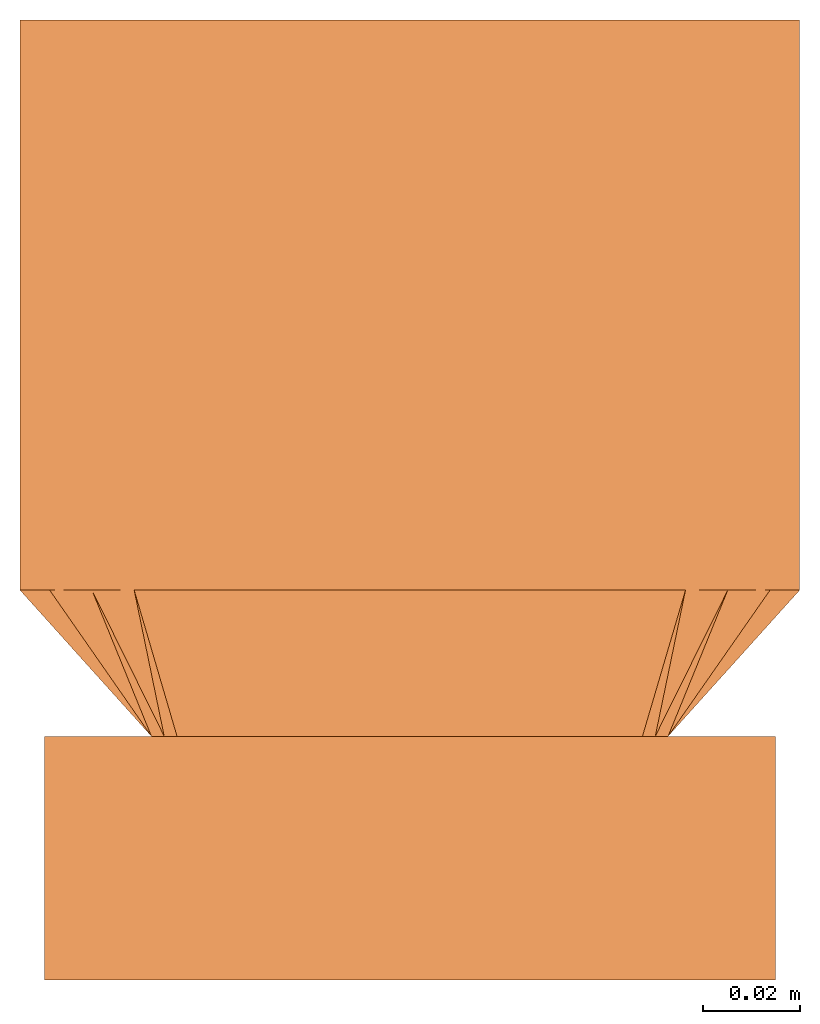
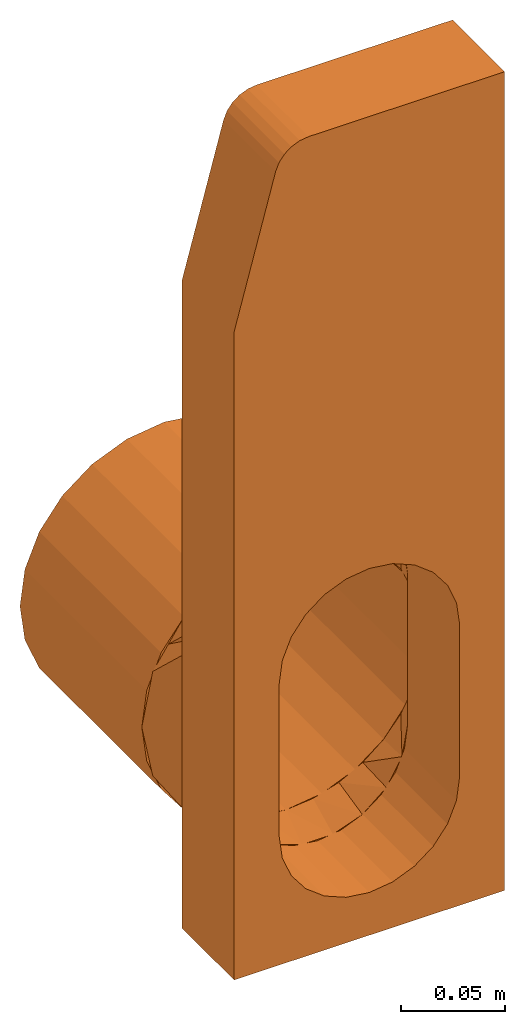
# One storey: 1 proxy.
"""IFC2X3 building model written with IfcOpenShell, lengths in millimetres."""

from ifc_helpers import new_model, entity, si_unit, converted_unit, direction, frame, origin, place, context, subcontext, project, spatial, faceted_brep, source, transform, mapped, material, material_list, element, save


model = new_model("IFC2X3")

# Units and contexts
model_context = context("Model", 3, precision=1e-06, world=origin(), true_north=direction((2.0, 6.12303176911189e-17, 1.0)))
context_of_model = context(None, 3, precision=1e-06, world=origin(), true_north=direction((2.0, 6.12303176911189e-17, 1.0)))
body_context = subcontext(model_context, "Body", "Model", "MODEL_VIEW")
ifc_project = project(units=[si_unit("LENGTHUNIT", "METRE", prefix="MILLI"), si_unit("AREAUNIT", "SQUARE_METRE", prefix="MILLI"), si_unit("VOLUMEUNIT", "CUBIC_METRE", prefix="MILLI"), converted_unit("PLANEANGLEUNIT", "DEGREE", entity("IfcRatioMeasure", 0.0174532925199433), si_unit("PLANEANGLEUNIT", "RADIAN"), dimensions=[0, 0, 0, 0, 0, 0, 0]), si_unit("TIMEUNIT", "SECOND")], contexts=[model_context, context_of_model])

# Site, building, storey
site_placement = place(None, origin())
site = spatial("IfcSite", under=ifc_project, at=site_placement, Name="Default", CompositionType="ELEMENT")
building_placement = place(site_placement, origin())
building = spatial("IfcBuilding", under=site, at=building_placement, CompositionType="ELEMENT")
storey_placement = place(building_placement, frame((0.0, 0.0, -300.0)))
storey = spatial("IfcBuildingStorey", under=building, at=storey_placement, Name="T.O. Fnd. Wall", CompositionType="ELEMENT", Elevation=-300.0)

# Proxy
ifc_material_1 = material(Name="Acetal Resin, Black")
ifc_material_2 = material(Name="ACO Polymer Concrete.")
ifc_material_list = material_list([ifc_material_1, ifc_material_2])
shared_shape = source(origin(), body_context, "Body", "Brep", [
    faceted_brep([(49.9795963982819, 50.0, -279.965697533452), (49.9795963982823, 50.0, -189.965697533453), (57.0264874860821, 57.9714749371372, -206.846749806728), (64.0733785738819, 65.9429498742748, -223.727802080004), (-50.0204036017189, 50.0, -279.965697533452), (-57.0564515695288, 57.9714749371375, -272.932324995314), (-73.3981248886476, 76.4857374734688, -246.054077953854), (-70.2962497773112, 72.9714749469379, -238.61198600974), (-50.0204036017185, 50.0, -189.965697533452), (-63.6131389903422, 80.0, -211.003599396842), (-47.0111437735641, 50.0, -172.881484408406), (-42.5098067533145, 80.0, -189.894547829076), (-38.3448463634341, 50.0, -157.852817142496), (-14.9344294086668, 80.0, -178.468089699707), (-8.70797821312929, 50.0, -140.726221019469), (-25.0351777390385, 50.0, -146.672960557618), (-0.00990544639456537, 80.0, -176.996170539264), (-29.2848805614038, 80.0, -182.823362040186), (-64.0924995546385, 65.942949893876, -223.727802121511), (-75.0320052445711, 80.0, -238.58147281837), (-70.6806531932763, 80.0, -224.230229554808), (-57.0564515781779, 57.9714749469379, -206.846749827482), (75.9597760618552, 80.0, -248.011974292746), (76.5000000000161, 80.0, -253.496169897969), (73.3933446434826, 76.4857374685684, -246.054077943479), (70.286689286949, 72.9714749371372, -238.611985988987), (-54.1010243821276, 80.0, -199.409857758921), (-75.9602066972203, 80.0, -248.011917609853), (14.9151545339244, 80.0, -178.464255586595), (8.67311493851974, 50.0, -140.727270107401), (25.0117179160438, 50.0, -146.682988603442), (75.0296544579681, 80.0, -238.569651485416), (70.6752538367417, 80.0, -224.217192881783), (42.4945199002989, 80.0, -189.884333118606), (46.9680154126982, 50.0, -172.875101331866), (38.300567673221, 50.0, -157.848674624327), (29.2671630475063, 80.0, -182.816022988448), (63.6043324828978, 80.0, -210.990418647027), (54.0888079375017, 80.0, -199.397640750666), (-76.4999999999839, 80.0, -253.496169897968), (63.604332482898, 80.0, -296.001921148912), (46.962991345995, 50.0, -297.070100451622), (42.4945199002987, 80.0, -317.108006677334), (38.2756927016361, 50.0, -312.112377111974), (14.9151545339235, 80.0, -328.528084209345), (8.65911579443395, 50.0, -329.206594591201), (24.9763976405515, 50.0, -323.268814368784), (-0.00990544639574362, 80.0, -329.996169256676), (29.2671630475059, 80.0, -324.176316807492), (64.0733785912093, 65.9429498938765, -265.898952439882), (75.0296544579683, 80.0, -268.422688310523), (70.675253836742, 80.0, -282.775146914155), (57.026487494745, 57.9714749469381, -272.932324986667), (-75.9602066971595, 80.0, -258.980422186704), (-73.3981248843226, 76.4857374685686, -256.59686553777), (-70.2962497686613, 72.9714749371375, -259.697561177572), (54.0888079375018, 80.0, -307.594699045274), (-64.0924995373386, 65.9429498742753, -265.898952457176), (-75.0320052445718, 80.0, -268.410866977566), (-14.9344294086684, 80.0, -328.524250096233), (-8.71009401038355, 50.0, -329.204800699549), (-25.0359891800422, 50.0, -323.257965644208), (70.2866892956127, 72.9714749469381, -259.697561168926), (75.9597760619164, 80.0, -258.980365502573), (-42.5098067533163, 80.0, -317.097791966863), (-47.007916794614, 50.0, -297.058783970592), (-38.3294637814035, 50.0, -312.096927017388), (-29.2848805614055, 80.0, -324.168977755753), (-63.6131389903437, 80.0, -295.988740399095), (-54.1010243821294, 80.0, -307.582482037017), (73.3933446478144, 76.4857374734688, -256.596865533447), (-70.6806531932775, 80.0, -282.762110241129), (-30.614674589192, 80.0, -327.506532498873), (-43.5916085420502, 80.0, -318.835622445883), (0.0, 80.0, -333.59616989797), (-15.3073372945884, 80.0, -330.551351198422), (-56.5685424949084, 80.0, -310.164712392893), (-73.9103626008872, 80.0, -284.210844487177), (-77.7502172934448, 80.0, -264.906591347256), (-65.2394525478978, 80.0, -297.187778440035), (30.6146745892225, 80.0, -327.506532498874), (15.3073372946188, 80.0, -330.551351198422), (56.5685424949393, 80.0, -310.164712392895), (43.5916085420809, 80.0, -318.835622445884), (73.9103626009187, 80.0, -284.210844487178), (65.239452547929, 80.0, -297.187778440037), (80.0, 80.0, -253.596169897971), (77.7502172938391, 80.0, -264.906591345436), (-80.0, 80.0, -253.596169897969), (-77.7502172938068, 80.0, -242.285748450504), (-73.9103626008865, 80.0, -222.981495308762), (-65.2394525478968, 80.0, -210.004561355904), (-56.5685424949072, 80.0, -197.027627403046), (-43.5916085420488, 80.0, -188.356717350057), (-30.6146745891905, 80.0, -179.685807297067), (-15.307337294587, 80.0, -176.640988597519), (0.0, 80.0, -173.59616989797), (56.56854249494, 80.0, -197.027627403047), (65.2394525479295, 80.0, -210.004561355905), (73.910362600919, 80.0, -222.981495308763), (77.7502172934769, 80.0, -242.285748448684), (30.6146745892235, 80.0, -179.685807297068), (15.30733729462, 80.0, -176.640988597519), (43.5916085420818, 80.0, -188.356717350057), (33.0245558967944, 50.0, -321.402766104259), (40.3777511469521, 50.0, -312.182150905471), (11.7732058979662, 50.0, -331.63687687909), (22.3988808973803, 50.0, -326.519821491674), (-11.8140131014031, 50.0, -331.63687687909), (-0.0204036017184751, 50.0, -331.63687687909), (52.9795963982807, 50.0, -279.965697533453), (50.3552713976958, 50.0, -291.463616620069), (52.9795963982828, 50.0, -189.965697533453), (47.7309463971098, 50.0, -302.961535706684), (-22.4396881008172, 50.0, -326.519821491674), (-33.0653631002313, 50.0, -321.402766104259), (-47.7717536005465, 50.0, -302.961535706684), (-40.4185583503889, 50.0, -312.182150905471), (-53.0204036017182, 50.0, -279.965697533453), (-50.3960786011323, 50.0, -291.463616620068), (-53.0204036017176, 50.0, -189.965697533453), (50.3552713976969, 50.0, -178.467778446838), (47.7309463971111, 50.0, -166.969859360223), (40.3777511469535, 50.0, -157.749244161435), (33.0245558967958, 50.0, -148.528628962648), (22.3988808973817, 50.0, -143.411573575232), (11.7732058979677, 50.0, -138.294518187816), (-0.0204036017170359, 50.0, -138.294518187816), (-47.7717536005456, 50.0, -166.969859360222), (-50.3960786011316, 50.0, -178.467778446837), (-11.8140131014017, 50.0, -138.294518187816), (-22.4396881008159, 50.0, -143.411573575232), (-33.0653631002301, 50.0, -148.528628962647), (-40.4185583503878, 50.0, -157.749244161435), (-73.5233286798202, 72.7982562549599, -238.3211580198), (-67.0466573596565, 65.5965125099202, -223.04614614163), (73.5135325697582, 72.7982562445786, -238.321157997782), (67.0270651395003, 65.5965124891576, -223.046146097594), (73.5135325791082, 72.79825625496, -259.926389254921), (67.0270651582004, 65.5965125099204, -266.25660861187), (-73.5233286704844, 72.7982562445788, -259.926389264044), (-67.0466573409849, 65.596512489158, -266.256608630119)], [[[0, 1, 2, 3]], [[4, 5, 6, 7]], [[8, 9, 10]], [[10, 11, 12]], [[13, 14, 15]], [[16, 14, 13]], [[17, 15, 12]], [[17, 13, 15]], [[18, 19, 20]], [[8, 21, 9]], [[22, 23, 24, 25]], [[10, 26, 11]], [[26, 10, 9]], [[20, 9, 21]], [[12, 11, 17]], [[7, 6, 27, 19]], [[28, 29, 16]], [[14, 16, 29]], [[30, 29, 28]], [[31, 3, 32]], [[33, 34, 35]], [[35, 30, 36]], [[32, 3, 2]], [[36, 30, 28]], [[21, 18, 20]], [[1, 34, 37]], [[36, 33, 35]], [[33, 38, 34]], [[25, 3, 31, 22]], [[1, 37, 2]], [[38, 37, 34]], [[32, 2, 37]], [[6, 39, 27]], [[18, 7, 19]], [[0, 40, 41]], [[41, 42, 43]], [[44, 45, 46]], [[47, 45, 44]], [[48, 46, 43]], [[48, 44, 46]], [[49, 50, 51]], [[0, 52, 40]], [[53, 39, 54, 55]], [[41, 56, 42]], [[56, 41, 40]], [[51, 40, 52]], [[43, 42, 48]], [[55, 57, 58, 53]], [[59, 60, 47]], [[45, 47, 60]], [[61, 60, 59]], [[50, 49, 62, 63]], [[64, 65, 66]], [[66, 61, 67]], [[67, 61, 59]], [[4, 68, 5]], [[4, 65, 68]], [[67, 64, 66]], [[64, 69, 65]], [[63, 62, 70, 23]], [[71, 57, 5]], [[69, 68, 65]], [[52, 49, 51]], [[71, 5, 68]], [[58, 57, 71]], [[72, 73, 64, 67]], [[74, 75, 59, 47]], [[72, 67, 59, 75]], [[76, 69, 64, 73]], [[77, 78, 58, 71]], [[68, 69, 76, 79]], [[77, 71, 68, 79]], [[80, 81, 44, 48]], [[82, 83, 42, 56]], [[80, 48, 42, 83]], [[74, 47, 44, 81]], [[40, 51, 84, 85]], [[86, 87, 50, 63]], [[84, 51, 50, 87]], [[82, 56, 40, 85]], [[88, 39, 53, 58]], [[19, 27, 88, 89]], [[90, 20, 19, 89]], [[9, 20, 90, 91]], [[92, 26, 9, 91]], [[92, 93, 11, 26]], [[94, 17, 11, 93]], [[13, 17, 94, 95]], [[96, 16, 13, 95]], [[97, 98, 37, 38]], [[99, 32, 37, 98]], [[99, 100, 31, 32]], [[86, 23, 22, 31]], [[101, 36, 28, 102]], [[96, 102, 28, 16]], [[101, 103, 33, 36]], [[97, 38, 33, 103]], [[43, 46, 104, 105]], [[106, 107, 46, 45]], [[108, 109, 45, 60]], [[110, 0, 41, 111]], [[1, 0, 110, 112]], [[41, 43, 113, 111]], [[108, 60, 61, 114]], [[115, 114, 61, 66]], [[66, 65, 116, 117]], [[118, 119, 65, 4]], [[118, 4, 8, 120]], [[34, 1, 112, 121]], [[35, 34, 122, 123]], [[30, 35, 124, 125]], [[126, 29, 30, 125]], [[14, 29, 126, 127]], [[128, 129, 10, 12]], [[120, 8, 10, 129]], [[15, 14, 130, 131]], [[12, 15, 132, 133]], [[91, 129, 92]], [[125, 124, 101]], [[93, 128, 133, 132]], [[89, 88, 134, 135]], [[96, 95, 130]], [[131, 130, 95]], [[96, 130, 127, 126]], [[135, 120, 90, 89]], [[136, 86, 100, 137]], [[129, 91, 120]], [[129, 128, 92]], [[94, 131, 95]], [[96, 126, 102]], [[102, 125, 101]], [[123, 122, 103, 124]], [[94, 132, 131]], [[120, 91, 90]], [[112, 98, 121]], [[99, 112, 137, 100]], [[125, 102, 126]], [[122, 121, 97]], [[128, 93, 92]], [[124, 103, 101]], [[97, 121, 98]], [[112, 99, 98]], [[93, 132, 94]], [[103, 122, 97]], [[118, 120, 135, 134]], [[85, 111, 82]], [[114, 115, 72]], [[83, 113, 105, 104]], [[87, 86, 138, 139]], [[74, 81, 106]], [[107, 106, 81]], [[74, 106, 109, 108]], [[139, 110, 84, 87]], [[140, 88, 78, 141]], [[111, 85, 110]], [[111, 113, 82]], [[80, 107, 81]], [[74, 108, 75]], [[75, 114, 72]], [[117, 116, 73, 115]], [[80, 104, 107]], [[110, 85, 84]], [[118, 79, 119]], [[77, 118, 141, 78]], [[114, 75, 108]], [[116, 119, 76]], [[113, 83, 82]], [[115, 73, 72]], [[76, 119, 79]], [[118, 77, 79]], [[83, 104, 80]], [[73, 116, 76]], [[110, 139, 136, 137]], [[0, 3, 25, 24]], [[24, 23, 70, 62]], [[24, 62, 49, 52]], [[24, 52, 0]], [[4, 7, 18, 21]], [[4, 21, 8]], [[6, 5, 57, 55]], [[6, 55, 54, 39]], [[58, 78, 88]], [[86, 63, 23]], [[88, 27, 39]], [[31, 100, 86]], [[46, 107, 104]], [[45, 109, 106]], [[43, 105, 113]], [[65, 119, 116]], [[66, 117, 115]], [[34, 121, 122]], [[35, 123, 124]], [[14, 127, 130]], [[15, 131, 132]], [[12, 133, 128]], [[134, 88, 140, 141]], [[134, 141, 118]], [[110, 137, 112]], [[136, 139, 138, 86]]]),
    faceted_brep([(-43.1258679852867, 0.0, 122.454482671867), (-47.0608968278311, 0.0, 119.435028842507), (-33.6258679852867, 0.0, 125.0), (-38.5434298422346, 0.0, 124.352590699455), (-50.080350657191, 0.0, 115.499999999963), (-51.978458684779, 0.0, 110.917561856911), (-75.0, 0.0, 25.0), (75.0, 0.0, 125.0), (-43.2808665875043, 0.0, -164.965697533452), (-35.3349354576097, 0.0, -154.610358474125), (-48.2758877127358, 0.0, -177.024745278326), (-49.9795963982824, 0.0, -189.965697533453), (-75.0, 0.0, -355.0), (-24.9795963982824, 0.0, -146.66442734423), (0.0204036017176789, 0.0, -139.965697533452), (12.9613558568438, 0.0, -141.669406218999), (-12.9205486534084, 0.0, -141.669406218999), (35.3757426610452, 0.0, -154.610358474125), (43.3216737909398, 0.0, -164.965697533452), (25.0204036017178, 0.0, -146.66442734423), (48.3166949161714, 0.0, -177.024745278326), (-49.979596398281, 0.0, -279.965697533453), (-43.2808665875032, 0.0, -304.965697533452), (-48.2758877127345, 0.0, -292.906649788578), (-35.3349354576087, 0.0, -315.32103659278), (-24.9795963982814, 0.0, -323.266967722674), (-12.9205486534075, 0.0, -328.261988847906), (0.0204036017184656, 0.0, -329.965697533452), (75.0, 0.0, -355.0), (50.0204036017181, 0.0, -189.965697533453), (50.0204036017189, 0.0, -279.965697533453), (48.3166949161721, 0.0, -292.906649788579), (25.0204036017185, 0.0, -323.266967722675), (12.9613558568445, 0.0, -328.261988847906), (43.3216737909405, 0.0, -304.965697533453), (35.3757426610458, 0.0, -315.32103659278), (-75.0, 50.0, -355.0), (-24.9795963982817, 50.0, -323.266967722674), (-12.9205486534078, 50.0, -328.261988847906), (-35.334935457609, 50.0, -315.32103659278), (0.0204036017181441, 50.0, -329.965697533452), (75.0, 50.0, -355.0), (-49.9795963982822, 50.0, -189.965697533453), (-49.9795963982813, 50.0, -279.965697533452), (-75.0, 50.0, 25.0), (-43.2808665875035, 50.0, -304.965697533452), (-48.2758877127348, 50.0, -292.906649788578), (12.9613558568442, 50.0, -328.261988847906), (25.0204036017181, 50.0, -323.266967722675), (35.3757426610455, 50.0, -315.32103659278), (43.3216737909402, 50.0, -304.965697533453), (50.0204036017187, 50.0, -279.965697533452), (50.0204036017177, 50.0, -189.965697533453), (75.0, 50.0, 125.0), (48.3166949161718, 50.0, -292.906649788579), (48.3166949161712, 50.0, -177.024745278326), (-48.275887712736, 50.0, -177.024745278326), (-43.2808665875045, 50.0, -164.965697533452), (-35.3349354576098, 50.0, -154.610358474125), (-24.9795963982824, 50.0, -146.66442734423), (-33.625867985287, 50.0, 125.0), (-51.9784586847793, 50.0, 110.917561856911), (-50.0803506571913, 50.0, 115.499999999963), (-47.0608968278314, 50.0, 119.435028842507), (-43.125867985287, 50.0, 122.454482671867), (-38.5434298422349, 50.0, 124.352590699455), (43.3216737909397, 50.0, -164.965697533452), (35.3757426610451, 50.0, -154.610358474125), (25.0204036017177, 50.0, -146.66442734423), (0.0204036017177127, 50.0, -139.965697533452), (-12.9205486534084, 50.0, -141.669406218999), (12.9613558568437, 50.0, -141.669406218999)], [[[0, 1, 2, 3]], [[2, 1, 4, 5]], [[2, 5, 6, 7]], [[8, 9, 6]], [[10, 8, 6]], [[11, 10, 6, 12]], [[13, 6, 9]], [[6, 14, 15, 7]], [[6, 16, 14]], [[17, 18, 7]], [[19, 17, 7]], [[15, 19, 7]], [[6, 13, 16]], [[7, 18, 20]], [[21, 11, 12]], [[22, 23, 12]], [[21, 12, 23]], [[24, 12, 25]], [[12, 24, 22]], [[26, 25, 12]], [[27, 26, 12, 28]], [[29, 30, 28, 7]], [[31, 28, 30]], [[32, 33, 28]], [[34, 35, 28]], [[28, 35, 32]], [[34, 28, 31]], [[33, 27, 28]], [[29, 7, 20]], [[36, 37, 38]], [[37, 36, 39]], [[36, 38, 40, 41]], [[42, 43, 36, 44]], [[45, 39, 36]], [[46, 45, 36]], [[43, 46, 36]], [[47, 48, 41]], [[41, 49, 50]], [[49, 41, 48]], [[47, 41, 40]], [[41, 51, 52, 53]], [[54, 51, 41]], [[50, 54, 41]], [[53, 52, 55]], [[56, 44, 57]], [[44, 56, 42]], [[58, 57, 44]], [[58, 44, 59]], [[60, 61, 62, 63]], [[60, 63, 64, 65]], [[44, 61, 60, 53]], [[66, 67, 53]], [[68, 53, 67]], [[44, 69, 70]], [[70, 59, 44]], [[71, 69, 44, 53]], [[71, 53, 68]], [[66, 53, 55]], [[44, 36, 12, 6]], [[5, 61, 44, 6]], [[62, 4, 1, 63]], [[61, 5, 4, 62]], [[63, 1, 0, 64]], [[64, 0, 3, 65]], [[65, 3, 2, 60]], [[53, 60, 2, 7]], [[41, 53, 7, 28]], [[36, 41, 28, 12]], [[43, 42, 11, 21]], [[56, 10, 11, 42]], [[57, 8, 10, 56]], [[58, 9, 8, 57]], [[59, 13, 9, 58]], [[16, 70, 69, 14]], [[13, 59, 70, 16]], [[19, 15, 71, 68]], [[17, 19, 68, 67]], [[20, 18, 66, 55]], [[18, 17, 67, 66]], [[29, 20, 55, 52]], [[69, 71, 15, 14]], [[52, 51, 30, 29]], [[54, 31, 30, 51]], [[50, 34, 31, 54]], [[27, 33, 47, 40]], [[49, 35, 34, 50]], [[49, 48, 32, 35]], [[33, 32, 48, 47]], [[25, 26, 38, 37]], [[24, 25, 37, 39]], [[23, 22, 45, 46]], [[22, 24, 39, 45]], [[21, 23, 46, 43]], [[40, 38, 26, 27]]]),
    faceted_brep([(38.249999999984, 80.0, -319.74711328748), (40.0, 80.0, -322.878202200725), (56.5685424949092, 80.0, -310.164712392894), (54.0936687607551, 80.0, -307.589838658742), (19.7996569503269, 80.0, -327.389495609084), (20.7055236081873, 80.0, -330.870236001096), (0.0, 80.0, -329.99616989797), (0.0, 80.0, -333.59616989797), (73.8933257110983, 80.0, -273.295826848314), (77.2740661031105, 80.0, -274.301693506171), (80.0, 80.0, -253.59616989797), (76.4999999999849, 80.0, -253.496169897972), (66.2509433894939, 80.0, -291.746169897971), (69.2820323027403, 80.0, -293.59616989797), (-20.705523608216, 80.0, -330.870236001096), (-19.7996569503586, 80.0, -327.389495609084), (-40.0, 80.0, -322.878202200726), (-38.2500000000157, 80.0, -319.74711328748), (-56.5685424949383, 80.0, -310.164712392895), (-54.0936687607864, 80.0, -307.589838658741), (-66.2509433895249, 80.0, -291.74616989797), (-69.2820323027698, 80.0, -293.596169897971), (-77.2740661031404, 80.0, -274.301693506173), (-73.893325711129, 80.0, -273.295826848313), (-80.0, 80.0, -253.596169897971), (-76.5000000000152, 80.0, -253.496169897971), (77.2740661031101, 80.0, -232.890646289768), (73.893325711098, 80.0, -233.696512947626), (69.2820323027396, 80.0, -213.59616989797), (66.2509433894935, 80.0, -215.246169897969), (56.5685424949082, 80.0, -197.027627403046), (54.0936687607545, 80.0, -199.402501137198), (40.0, 80.0, -184.314137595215), (38.2499999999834, 80.0, -187.24522650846), (20.7055236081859, 80.0, -176.322103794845), (19.7996569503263, 80.0, -179.602844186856), (0.0, 80.0, -173.59616989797), (0.0, 80.0, -176.99616989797), (-56.5685424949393, 80.0, -197.027627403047), (-69.2820323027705, 80.0, -213.596169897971), (-66.2509433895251, 80.0, -215.246169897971), (-54.0936687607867, 80.0, -199.4025011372), (-73.8933257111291, 80.0, -233.696512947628), (-77.2740661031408, 80.0, -232.890646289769), (-20.7055236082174, 80.0, -176.322103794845), (-19.7996569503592, 80.0, -179.602844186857), (-38.2500000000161, 80.0, -187.245226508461), (-40.0, 80.0, -184.314137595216), (54.0936687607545, 197.0, -199.402501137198), (38.2499999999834, 197.0, -187.24522650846), (40.0, 197.0, -184.314137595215), (56.5685424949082, 197.0, -197.027627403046), (20.7055236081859, 197.0, -176.322103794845), (19.7996569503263, 197.0, -179.602844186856), (0.0, 197.0, -173.59616989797), (0.0, 197.0, -176.99616989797), (76.4999999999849, 197.0, -253.496169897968), (73.893325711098, 197.0, -233.696512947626), (77.2740661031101, 197.0, -232.890646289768), (80.0, 197.0, -253.59616989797), (69.2820323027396, 197.0, -213.59616989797), (66.2509433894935, 197.0, -215.246169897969), (-19.7996569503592, 197.0, -179.602844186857), (-20.7055236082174, 197.0, -176.322103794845), (-38.2500000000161, 197.0, -187.245226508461), (-40.0, 197.0, -184.314137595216), (-54.0936687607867, 197.0, -199.4025011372), (-56.5685424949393, 197.0, -197.027627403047), (-66.2509433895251, 197.0, -215.246169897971), (-69.2820323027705, 197.0, -213.596169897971), (-73.8933257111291, 197.0, -233.696512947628), (-77.2740661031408, 197.0, -232.890646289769), (-76.5000000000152, 197.0, -253.49616989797), (-80.0, 197.0, -253.596169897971), (77.2740661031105, 197.0, -274.301693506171), (73.8933257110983, 197.0, -273.295826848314), (66.2509433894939, 197.0, -291.746169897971), (69.2820323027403, 197.0, -293.59616989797), (54.0936687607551, 197.0, -307.589838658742), (56.5685424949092, 197.0, -310.164712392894), (40.0, 197.0, -322.878202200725), (38.249999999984, 197.0, -319.74711328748), (19.7996569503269, 197.0, -327.389495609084), (20.7055236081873, 197.0, -330.870236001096), (0.0, 197.0, -329.99616989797), (0.0, 197.0, -333.59616989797), (-69.2820323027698, 197.0, -293.596169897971), (-66.2509433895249, 197.0, -291.74616989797), (-54.0936687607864, 197.0, -307.589838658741), (-56.5685424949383, 197.0, -310.164712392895), (-77.2740661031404, 197.0, -274.301693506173), (-73.893325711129, 197.0, -273.295826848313), (-20.705523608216, 197.0, -330.870236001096), (-19.7996569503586, 197.0, -327.389495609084), (-40.0, 197.0, -322.878202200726), (-38.2500000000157, 197.0, -319.74711328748)], [[[0, 1, 2, 3]], [[1, 0, 4, 5]], [[5, 4, 6, 7]], [[8, 9, 10, 11]], [[9, 8, 12, 13]], [[13, 12, 3, 2]], [[14, 7, 6, 15]], [[16, 14, 15, 17]], [[18, 16, 17, 19]], [[19, 20, 21, 18]], [[22, 21, 20, 23]], [[24, 22, 23, 25]], [[26, 27, 11, 10]], [[27, 26, 28, 29]], [[30, 31, 29, 28]], [[32, 33, 31, 30]], [[33, 32, 34, 35]], [[36, 37, 35, 34]], [[38, 39, 40, 41]], [[42, 40, 39, 43]], [[25, 42, 43, 24]], [[36, 44, 45, 37]], [[46, 45, 44, 47]], [[47, 38, 41, 46]], [[48, 49, 50, 51]], [[52, 50, 49, 53]], [[54, 52, 53, 55]], [[56, 57, 58, 59]], [[60, 58, 57, 61]], [[61, 48, 51, 60]], [[62, 63, 54, 55]], [[63, 62, 64, 65]], [[66, 67, 65, 64]], [[68, 69, 67, 66]], [[69, 68, 70, 71]], [[71, 70, 72, 73]], [[59, 74, 75, 56]], [[76, 75, 74, 77]], [[78, 76, 77, 79]], [[79, 80, 81, 78]], [[82, 81, 80, 83]], [[84, 82, 83, 85]], [[86, 87, 88, 89]], [[87, 86, 90, 91]], [[91, 90, 73, 72]], [[92, 93, 84, 85]], [[93, 92, 94, 95]], [[95, 94, 89, 88]], [[71, 43, 39, 69]], [[69, 39, 38, 67]], [[65, 47, 44, 63]], [[67, 38, 47, 65]], [[63, 44, 36, 54]], [[73, 24, 43, 71]], [[52, 34, 32, 50]], [[50, 32, 30, 51]], [[60, 28, 26, 58]], [[51, 30, 28, 60]], [[58, 26, 10, 59]], [[34, 52, 54, 36]], [[74, 9, 13, 77]], [[77, 13, 2, 79]], [[80, 1, 5, 83]], [[79, 2, 1, 80]], [[83, 5, 7, 85]], [[59, 10, 9, 74]], [[92, 14, 16, 94]], [[94, 16, 18, 89]], [[86, 21, 22, 90]], [[89, 18, 21, 86]], [[90, 22, 24, 73]], [[14, 92, 85, 7]], [[57, 56, 11, 27]], [[61, 57, 27, 29]], [[33, 49, 48, 31]], [[35, 53, 49, 33]], [[31, 48, 61, 29]], [[53, 35, 37, 55]], [[46, 64, 62, 45]], [[41, 66, 64, 46]], [[42, 70, 68, 40]], [[40, 68, 66, 41]], [[25, 72, 70, 42]], [[45, 62, 55, 37]], [[23, 91, 72, 25]], [[20, 87, 91, 23]], [[17, 95, 88, 19]], [[19, 88, 87, 20]], [[15, 93, 95, 17]], [[93, 15, 6, 84]], [[0, 81, 82, 4]], [[3, 78, 81, 0]], [[8, 75, 76, 12]], [[12, 76, 78, 3]], [[11, 56, 75, 8]], [[4, 82, 84, 6]]]),
])
proxy_placement = place(storey_placement, frame((-5682.99544306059, -10247.1166238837, 300.0)))
element("IfcBuildingElementProxy", 1, at=proxy_placement, inside=storey, material=ifc_material_list, Name="Civil-Drainage-Channel-ACO-KerbDrain-HB480(amar):4939 - LH inlet/outlet end cap:4939 - LH inlet/outlet end cap", ObjectType="4939 - LH inlet/outlet end cap", CompositionType="ELEMENT", context=body_context, shape_type="MappedRepresentation", body=[
    mapped(shared_shape, transform((0.0, 0.0, 0.0), scale=1.0)),
])

save(model, "model.ifc")
